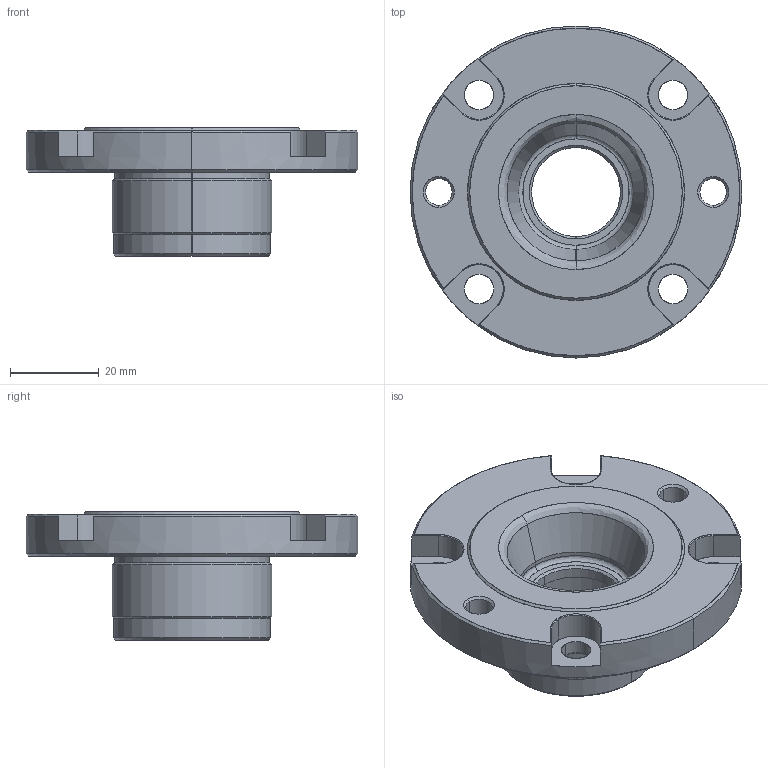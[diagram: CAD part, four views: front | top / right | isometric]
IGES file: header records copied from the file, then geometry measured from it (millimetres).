
Start section: SolidWorks IGES file using analytic representation for surfaces
Global section: file name: X:\11_SW2020-Inv2020\00_全2021-11新製品まで\a\AMWF50-BU-T\amwf50-bu-t.IGS; native system: SolidWorks 2020; preprocessor: SolidWorks 2020; author: ImaoCorp; date: 211021.163550; units: millimetre
Bounding box: 75 x 75 x 29 mm (x, y, z)
Surface area: 15183.3 mm2 (no closed solid volume)
Topology: 0 solids, 0 shells, 111 faces, 1693 edges, 1693 vertices
Faces by surface type: revolution 79, bspline 32
